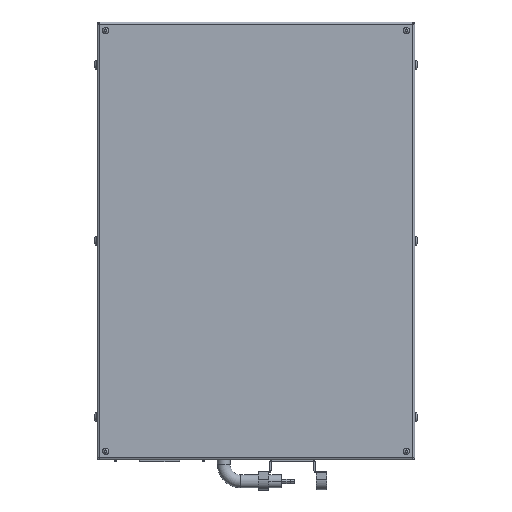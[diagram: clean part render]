
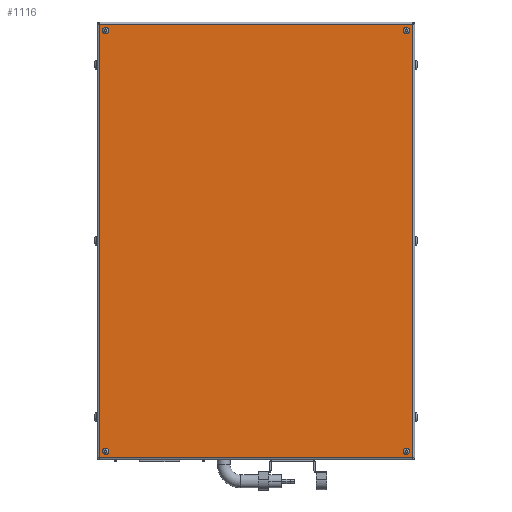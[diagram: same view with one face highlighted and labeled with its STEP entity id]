
A CAD part, front view. The second image highlights one B-rep face of the part: STEP entity #1116.
In plain terms, the highlighted planar face has unit normal (0, -1, 0).
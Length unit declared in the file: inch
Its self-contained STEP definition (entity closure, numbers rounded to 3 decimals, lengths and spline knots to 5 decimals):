
#465 = VERTEX_POINT ( 'NONE', #3449 ) ;
#528 = VECTOR ( 'NONE', #18612, 39.37008 ) ;
#704 = AXIS2_PLACEMENT_3D ( 'NONE', #18437, #4055, #10764 ) ;
#1008 = DIRECTION ( 'NONE',  ( 0., 0., -1. ) ) ;
#1116 = ADVANCED_FACE ( 'NONE', ( #8829, #14019, #12141, #5879, #6081 ), #17200, .T. ) ;
#1265 = CARTESIAN_POINT ( 'NONE',  ( 17.5, -14., 24.5 ) ) ;
#1427 = ORIENTED_EDGE ( 'NONE', *, *, #13906, .T. ) ;
#1821 = EDGE_CURVE ( 'NONE', #19623, #16179, #17036, .T. ) ;
#1965 = AXIS2_PLACEMENT_3D ( 'NONE', #2994, #10744, #2877 ) ;
#1967 = VERTEX_POINT ( 'NONE', #4332 ) ;
#2137 = DIRECTION ( 'NONE',  ( 0., 0., -1. ) ) ;
#2244 = CARTESIAN_POINT ( 'NONE',  ( -18.234, -14., 25.234 ) ) ;
#2363 = EDGE_LOOP ( 'NONE', ( #7098, #19377, #1427, #10361 ) ) ;
#2877 = DIRECTION ( 'NONE',  ( 0., 0., -1. ) ) ;
#2994 = CARTESIAN_POINT ( 'NONE',  ( -17.5, -14., -24.5 ) ) ;
#3449 = CARTESIAN_POINT ( 'NONE',  ( 18.234, -14., -25.234 ) ) ;
#3528 = DIRECTION ( 'NONE',  ( 0., 0., -1. ) ) ;
#3565 = EDGE_CURVE ( 'NONE', #1967, #13339, #4267, .T. ) ;
#3637 = CARTESIAN_POINT ( 'NONE',  ( -17.5, -14., 24.12598 ) ) ;
#3967 = ORIENTED_EDGE ( 'NONE', *, *, #3565, .F. ) ;
#4055 = DIRECTION ( 'NONE',  ( 0., -1., 0. ) ) ;
#4092 = CARTESIAN_POINT ( 'NONE',  ( 17.5, -14., -24.5 ) ) ;
#4160 = EDGE_LOOP ( 'NONE', ( #15511, #12716 ) ) ;
#4267 = CIRCLE ( 'NONE', #1965, 0.37402 ) ;
#4332 = CARTESIAN_POINT ( 'NONE',  ( -17.5, -14., -24.87402 ) ) ;
#4334 = AXIS2_PLACEMENT_3D ( 'NONE', #1265, #12414, #18860 ) ;
#4411 = LINE ( 'NONE', #12267, #15905 ) ;
#4504 = DIRECTION ( 'NONE',  ( 0., 0., -1. ) ) ;
#4576 = EDGE_LOOP ( 'NONE', ( #20404, #3967 ) ) ;
#5253 = VECTOR ( 'NONE', #10279, 39.37008 ) ;
#5372 = DIRECTION ( 'NONE',  ( 0., -1., 0. ) ) ;
#5872 = AXIS2_PLACEMENT_3D ( 'NONE', #4092, #5372, #2137 ) ;
#5879 = FACE_BOUND ( 'NONE', #4576, .T. ) ;
#5934 = CARTESIAN_POINT ( 'NONE',  ( 17.5, -14., 24.12598 ) ) ;
#6081 = FACE_OUTER_BOUND ( 'NONE', #2363, .T. ) ;
#6196 = DIRECTION ( 'NONE',  ( 0., -1., 0. ) ) ;
#6364 = VERTEX_POINT ( 'NONE', #10537 ) ;
#6547 = EDGE_LOOP ( 'NONE', ( #6880, #9266 ) ) ;
#6640 = EDGE_CURVE ( 'NONE', #12945, #7244, #17329, .T. ) ;
#6880 = ORIENTED_EDGE ( 'NONE', *, *, #6640, .F. ) ;
#6934 = AXIS2_PLACEMENT_3D ( 'NONE', #10996, #6196, #4504 ) ;
#7012 = VERTEX_POINT ( 'NONE', #17074 ) ;
#7098 = ORIENTED_EDGE ( 'NONE', *, *, #20440, .T. ) ;
#7244 = VERTEX_POINT ( 'NONE', #5934 ) ;
#7441 = CARTESIAN_POINT ( 'NONE',  ( 0., -14., 0. ) ) ;
#7460 = CARTESIAN_POINT ( 'NONE',  ( 17.5, -14., 24.5 ) ) ;
#7812 = LINE ( 'NONE', #18966, #12350 ) ;
#7912 = AXIS2_PLACEMENT_3D ( 'NONE', #7460, #18597, #1008 ) ;
#8700 = EDGE_CURVE ( 'NONE', #7012, #465, #12173, .T. ) ;
#8829 = FACE_BOUND ( 'NONE', #6547, .T. ) ;
#9041 = CIRCLE ( 'NONE', #704, 0.37402 ) ;
#9199 = VERTEX_POINT ( 'NONE', #13354 ) ;
#9242 = DIRECTION ( 'NONE',  ( 0., 0., -1. ) ) ;
#9266 = ORIENTED_EDGE ( 'NONE', *, *, #20405, .F. ) ;
#9310 = DIRECTION ( 'NONE',  ( 0., 0., 1. ) ) ;
#9470 = AXIS2_PLACEMENT_3D ( 'NONE', #7441, #20213, #9242 ) ;
#9474 = EDGE_CURVE ( 'NONE', #9199, #11710, #4411, .T. ) ;
#10231 = CIRCLE ( 'NONE', #5872, 0.37402 ) ;
#10279 = DIRECTION ( 'NONE',  ( 0., 0., -1. ) ) ;
#10361 = ORIENTED_EDGE ( 'NONE', *, *, #8700, .T. ) ;
#10491 = CARTESIAN_POINT ( 'NONE',  ( -17.5, -14., 24.5 ) ) ;
#10537 = CARTESIAN_POINT ( 'NONE',  ( 17.5, -14., -24.12598 ) ) ;
#10598 = CARTESIAN_POINT ( 'NONE',  ( -17.5, -14., 24.87402 ) ) ;
#10744 = DIRECTION ( 'NONE',  ( 0., -1., 0. ) ) ;
#10764 = DIRECTION ( 'NONE',  ( 0., 0., -1. ) ) ;
#10996 = CARTESIAN_POINT ( 'NONE',  ( -17.5, -14., -24.5 ) ) ;
#11217 = CIRCLE ( 'NONE', #17607, 0.37402 ) ;
#11290 = CARTESIAN_POINT ( 'NONE',  ( -17.5, -14., -24.12598 ) ) ;
#11710 = VERTEX_POINT ( 'NONE', #2244 ) ;
#11869 = EDGE_LOOP ( 'NONE', ( #13962, #15568 ) ) ;
#12141 = FACE_BOUND ( 'NONE', #4160, .T. ) ;
#12173 = LINE ( 'NONE', #13652, #528 ) ;
#12267 = CARTESIAN_POINT ( 'NONE',  ( -18.3, -14., 25.234 ) ) ;
#12350 = VECTOR ( 'NONE', #9310, 39.37008 ) ;
#12414 = DIRECTION ( 'NONE',  ( 0., -1., 0. ) ) ;
#12716 = ORIENTED_EDGE ( 'NONE', *, *, #18078, .F. ) ;
#12945 = VERTEX_POINT ( 'NONE', #14668 ) ;
#13250 = CARTESIAN_POINT ( 'NONE',  ( -17.5, -14., 24.5 ) ) ;
#13303 = CARTESIAN_POINT ( 'NONE',  ( -18.234, -14., -25.3 ) ) ;
#13339 = VERTEX_POINT ( 'NONE', #11290 ) ;
#13354 = CARTESIAN_POINT ( 'NONE',  ( 18.234, -14., 25.234 ) ) ;
#13652 = CARTESIAN_POINT ( 'NONE',  ( 18.3, -14., -25.234 ) ) ;
#13906 = EDGE_CURVE ( 'NONE', #11710, #7012, #15189, .T. ) ;
#13962 = ORIENTED_EDGE ( 'NONE', *, *, #18024, .F. ) ;
#14019 = FACE_BOUND ( 'NONE', #11869, .T. ) ;
#14668 = CARTESIAN_POINT ( 'NONE',  ( 17.5, -14., 24.87402 ) ) ;
#15189 = LINE ( 'NONE', #13303, #5253 ) ;
#15225 = DIRECTION ( 'NONE',  ( -1., 0., 0. ) ) ;
#15511 = ORIENTED_EDGE ( 'NONE', *, *, #20425, .F. ) ;
#15568 = ORIENTED_EDGE ( 'NONE', *, *, #1821, .F. ) ;
#15905 = VECTOR ( 'NONE', #15225, 39.37008 ) ;
#16179 = VERTEX_POINT ( 'NONE', #10598 ) ;
#16294 = VERTEX_POINT ( 'NONE', #19007 ) ;
#16897 = DIRECTION ( 'NONE',  ( 0., -1., 0. ) ) ;
#17036 = CIRCLE ( 'NONE', #18386, 0.37402 ) ;
#17074 = CARTESIAN_POINT ( 'NONE',  ( -18.234, -14., -25.234 ) ) ;
#17200 = PLANE ( 'NONE',  #9470 ) ;
#17329 = CIRCLE ( 'NONE', #7912, 0.37402 ) ;
#17607 = AXIS2_PLACEMENT_3D ( 'NONE', #10491, #16897, #18474 ) ;
#18024 = EDGE_CURVE ( 'NONE', #16179, #19623, #11217, .T. ) ;
#18077 = CIRCLE ( 'NONE', #4334, 0.37402 ) ;
#18078 = EDGE_CURVE ( 'NONE', #16294, #6364, #10231, .T. ) ;
#18386 = AXIS2_PLACEMENT_3D ( 'NONE', #13250, #19615, #3528 ) ;
#18437 = CARTESIAN_POINT ( 'NONE',  ( 17.5, -14., -24.5 ) ) ;
#18474 = DIRECTION ( 'NONE',  ( 0., 0., -1. ) ) ;
#18597 = DIRECTION ( 'NONE',  ( 0., -1., 0. ) ) ;
#18612 = DIRECTION ( 'NONE',  ( 1., 0., 0. ) ) ;
#18860 = DIRECTION ( 'NONE',  ( 0., 0., -1. ) ) ;
#18966 = CARTESIAN_POINT ( 'NONE',  ( 18.234, -14., 25.3 ) ) ;
#18986 = EDGE_CURVE ( 'NONE', #13339, #1967, #20048, .T. ) ;
#19007 = CARTESIAN_POINT ( 'NONE',  ( 17.5, -14., -24.87402 ) ) ;
#19377 = ORIENTED_EDGE ( 'NONE', *, *, #9474, .T. ) ;
#19615 = DIRECTION ( 'NONE',  ( 0., -1., 0. ) ) ;
#19623 = VERTEX_POINT ( 'NONE', #3637 ) ;
#20048 = CIRCLE ( 'NONE', #6934, 0.37402 ) ;
#20213 = DIRECTION ( 'NONE',  ( 0., -1., 0. ) ) ;
#20404 = ORIENTED_EDGE ( 'NONE', *, *, #18986, .F. ) ;
#20405 = EDGE_CURVE ( 'NONE', #7244, #12945, #18077, .T. ) ;
#20425 = EDGE_CURVE ( 'NONE', #6364, #16294, #9041, .T. ) ;
#20440 = EDGE_CURVE ( 'NONE', #465, #9199, #7812, .T. ) ;
